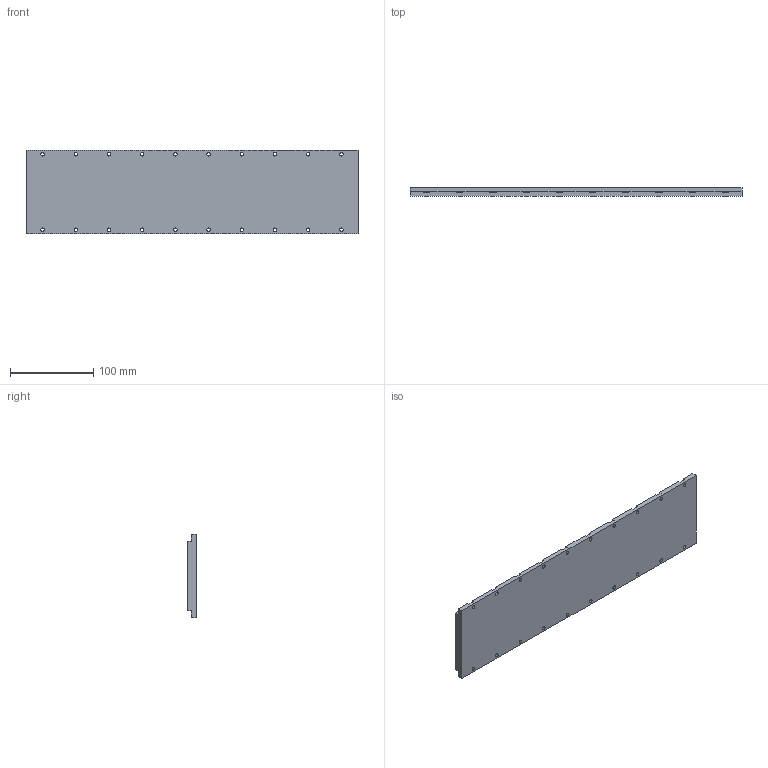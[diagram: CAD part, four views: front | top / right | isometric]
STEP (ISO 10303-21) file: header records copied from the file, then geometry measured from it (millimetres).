
FILE_DESCRIPTION (( 'STEP AP214' ), '1' );
FILE_NAME ('B-MJM080-L400.STEP', '2025-09-05T11:23:02', ( '' ), ( '' ), 'SwSTEP 2.0', 'SolidWorks 2016', '' );
FILE_SCHEMA (( 'AUTOMOTIVE_DESIGN' ));
Length unit declared in the file: millimetre
Products named in the file (1): B-MJM080-L400
Bounding box: 400 x 10.3 x 100 mm (x, y, z)
Volume: 380052.7 mm3; surface area: 91188.3 mm2
Topology: 1 solids, 1 shells, 140 faces, 414 edges, 276 vertices
Faces by surface type: cylinder 70, plane 70
Entity records: 4832 total; most frequent: DIRECTION 836, CARTESIAN_POINT 831, ORIENTED_EDGE 828, EDGE_CURVE 414, AXIS2_PLACEMENT_3D 281, VERTEX_POINT 276, LINE 274, VECTOR 274
